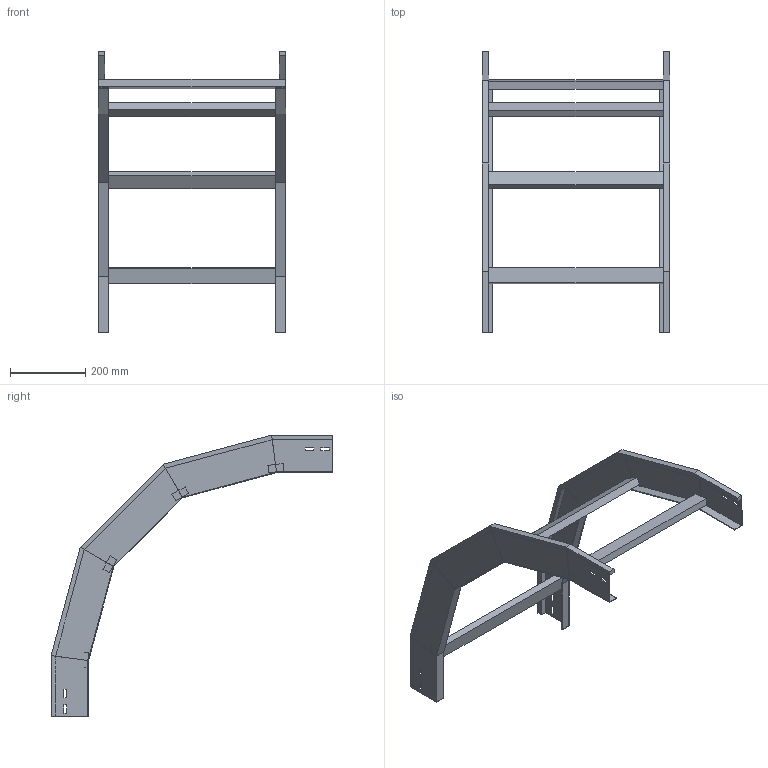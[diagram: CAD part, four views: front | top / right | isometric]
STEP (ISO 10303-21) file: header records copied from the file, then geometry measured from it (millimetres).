
FILE_DESCRIPTION (( 'STEP AP214' ), '1' );
FILE_NAME ('33B5D500.step', '2025-02-21T15:01:12', ( '' ), ( '' ), 'SwSTEP 2.0', 'SolidWorks 2023', '' );
FILE_SCHEMA (( 'AUTOMOTIVE_DESIGN' ));
Length unit declared in the file: millimetre
Products named in the file (3): LONGH.DISCESA_90°_H100_R500; TRAVERSINO_500; 33B5D500
Assembly tree (6 placements, depth 2):
  33B5D500
    LONGH.DISCESA_90°_H100_R500  x2
    TRAVERSINO_500  x4
Bounding box: 500 x 750.35 x 750.35 mm (x, y, z)
Volume: 2646468.1 mm3; surface area: 905203.4 mm2
Topology: 6 solids, 6 shells, 140 faces, 320 edges, 192 vertices
Faces by surface type: plane 140
Entity records: 1872 total; most frequent: CARTESIAN_POINT 309, ORIENTED_EDGE 296, DIRECTION 294, VECTOR 148, LINE 148, EDGE_CURVE 148, VERTEX_POINT 88, AXIS2_PLACEMENT_3D 73
